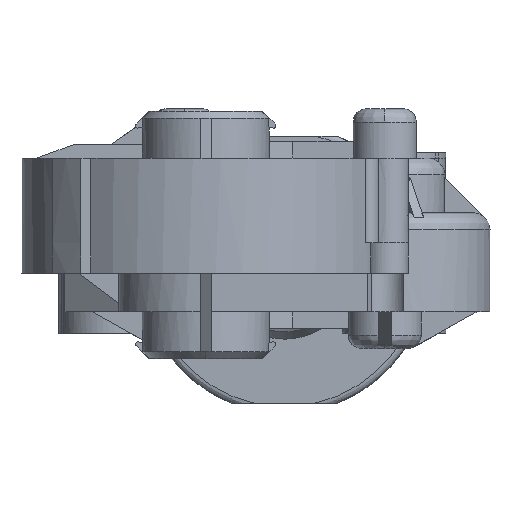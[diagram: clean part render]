
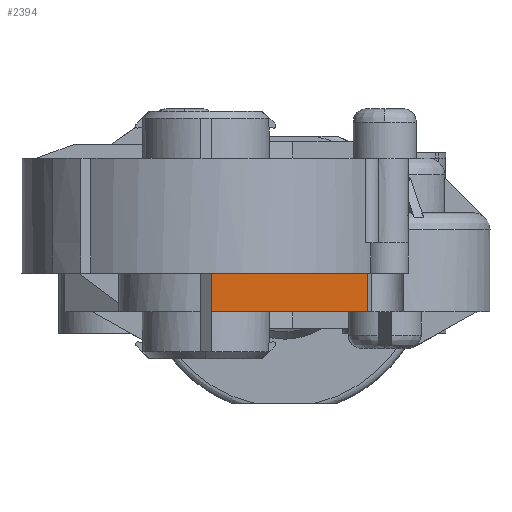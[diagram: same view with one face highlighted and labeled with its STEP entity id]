
A CAD part, front view. The second image highlights one B-rep face of the part: STEP entity #2394.
In plain terms, the highlighted free-form (B-spline) face has degree [3, 3] with [4, 4] control points.
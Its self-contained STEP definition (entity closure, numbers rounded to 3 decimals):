
#16469 = B_SPLINE_CURVE_WITH_KNOTS ( 'NONE', 1,
 ( #16470, #16471 ),
 .UNSPECIFIED., .F., .F.,
 ( 2, 2 ),
 ( 0., 1. ),
 .UNSPECIFIED. ) ;
#16470 = CARTESIAN_POINT ( 'NONE',  ( 12.433, -71.5, -6.3 ) ) ;
#16471 = CARTESIAN_POINT ( 'NONE',  ( 12.433, -71.5, -0.5 ) ) ;
#831 = CARTESIAN_POINT ( 'NONE',  ( 12.433, -71.5, -6.3 ) ) ;
#2394 = ADVANCED_FACE ( 'NONE', ( #10693 ), #10694, .F. ) ;
#2768 = EDGE_LOOP ( 'NONE', ( #3290, #4501, #5500, #6450 ) ) ;
#3267 = B_SPLINE_CURVE_WITH_KNOTS ( 'NONE', 1,
 ( #3273, #3274 ),
 .UNSPECIFIED., .F., .F.,
 ( 2, 2 ),
 ( 0., 1. ),
 .UNSPECIFIED. ) ;
#3273 = CARTESIAN_POINT ( 'NONE',  ( 12.433, -71.5, -6.3 ) ) ;
#3274 = CARTESIAN_POINT ( 'NONE',  ( -11., -71.5, -6.3 ) ) ;
#3290 = ORIENTED_EDGE ( 'NONE', *, *, #3676, .T. ) ;
#3473 = CARTESIAN_POINT ( 'NONE',  ( -11., -71.5, -6.3 ) ) ;
#19884 = VERTEX_POINT ( 'NONE', #831 ) ;
#3676 = EDGE_CURVE ( 'NONE', #22350, #12639, #12908, .T. ) ;
#3758 = CARTESIAN_POINT ( 'NONE',  ( 12.433, -71.5, -0.5 ) ) ;
#4501 = ORIENTED_EDGE ( 'NONE', *, *, #12181, .F. ) ;
#21427 = EDGE_CURVE ( 'NONE', #19884, #21878, #3267, .T. ) ;
#5500 = ORIENTED_EDGE ( 'NONE', *, *, #21427, .F. ) ;
#21878 = VERTEX_POINT ( 'NONE', #3473 ) ;
#22350 = VERTEX_POINT ( 'NONE', #3758 ) ;
#6450 = ORIENTED_EDGE ( 'NONE', *, *, #7142, .T. ) ;
#7142 = EDGE_CURVE ( 'NONE', #19884, #22350, #16469, .T. ) ;
#10693 = FACE_OUTER_BOUND ( 'NONE', #2768, .T. ) ;
#10694 = B_SPLINE_SURFACE_WITH_KNOTS ( 'NONE', 3, 3, ( 
 ( #10695, #10696, #10697, #10698 ),
 ( #10699, #10700, #10701, #10702 ),
 ( #10703, #10725, #10726, #10727 ),
 ( #10728, #10729, #10730, #10731 ) ),
 .UNSPECIFIED., .F., .F., .F.,
 ( 4, 4 ),
 ( 4, 4 ),
 ( 0.04, 0.96 ),
 ( 0., 1. ),
 .UNSPECIFIED. ) ;
#10695 = CARTESIAN_POINT ( 'NONE',  ( 12.433, -71.5, -6.3 ) ) ;
#10696 = CARTESIAN_POINT ( 'NONE',  ( 12.433, -71.5, -4.367 ) ) ;
#10697 = CARTESIAN_POINT ( 'NONE',  ( 12.433, -71.5, -2.433 ) ) ;
#10698 = CARTESIAN_POINT ( 'NONE',  ( 12.433, -71.5, -0.5 ) ) ;
#10699 = CARTESIAN_POINT ( 'NONE',  ( 4.622, -71.5, -6.3 ) ) ;
#10700 = CARTESIAN_POINT ( 'NONE',  ( 4.622, -71.5, -4.367 ) ) ;
#10701 = CARTESIAN_POINT ( 'NONE',  ( 4.622, -71.5, -2.433 ) ) ;
#10702 = CARTESIAN_POINT ( 'NONE',  ( 4.622, -71.5, -0.5 ) ) ;
#10703 = CARTESIAN_POINT ( 'NONE',  ( -3.189, -71.5, -6.3 ) ) ;
#10725 = CARTESIAN_POINT ( 'NONE',  ( -3.189, -71.5, -4.367 ) ) ;
#10726 = CARTESIAN_POINT ( 'NONE',  ( -3.189, -71.5, -2.433 ) ) ;
#10727 = CARTESIAN_POINT ( 'NONE',  ( -3.189, -71.5, -0.5 ) ) ;
#10728 = CARTESIAN_POINT ( 'NONE',  ( -11., -71.5, -6.3 ) ) ;
#10729 = CARTESIAN_POINT ( 'NONE',  ( -11., -71.5, -4.367 ) ) ;
#10730 = CARTESIAN_POINT ( 'NONE',  ( -11., -71.5, -2.433 ) ) ;
#10731 = CARTESIAN_POINT ( 'NONE',  ( -11., -71.5, -0.5 ) ) ;
#27532 = B_SPLINE_CURVE_WITH_KNOTS ( 'NONE', 1,
 ( #27533, #27534 ),
 .UNSPECIFIED., .F., .F.,
 ( 2, 2 ),
 ( 0., 1. ),
 .UNSPECIFIED. ) ;
#27533 = CARTESIAN_POINT ( 'NONE',  ( -11., -71.5, -6.3 ) ) ;
#27534 = CARTESIAN_POINT ( 'NONE',  ( -11., -71.5, -0.5 ) ) ;
#28025 = CARTESIAN_POINT ( 'NONE',  ( -11., -71.5, -0.5 ) ) ;
#12181 = EDGE_CURVE ( 'NONE', #21878, #12639, #27532, .T. ) ;
#12639 = VERTEX_POINT ( 'NONE', #28025 ) ;
#12908 = B_SPLINE_CURVE_WITH_KNOTS ( 'NONE', 1,
 ( #12909, #12910 ),
 .UNSPECIFIED., .F., .F.,
 ( 2, 2 ),
 ( 0., 1. ),
 .UNSPECIFIED. ) ;
#12909 = CARTESIAN_POINT ( 'NONE',  ( 12.433, -71.5, -0.5 ) ) ;
#12910 = CARTESIAN_POINT ( 'NONE',  ( -11., -71.5, -0.5 ) ) ;
